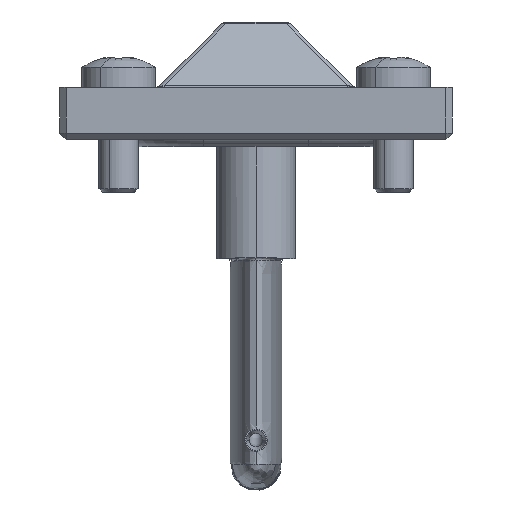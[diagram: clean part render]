
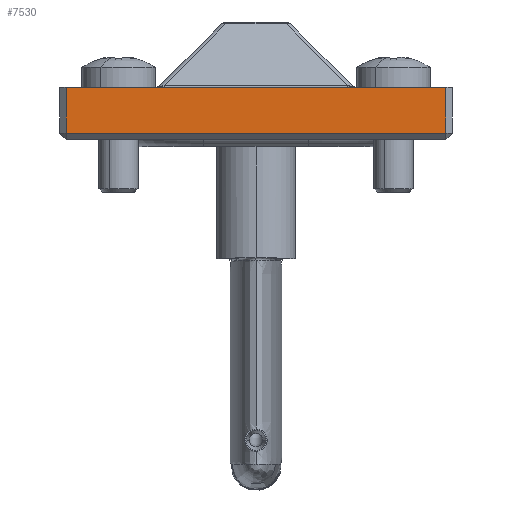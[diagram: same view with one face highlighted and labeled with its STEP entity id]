
A CAD part, front view. The second image highlights one B-rep face of the part: STEP entity #7530.
In plain terms, the highlighted planar face has unit normal (0, -1, 0).
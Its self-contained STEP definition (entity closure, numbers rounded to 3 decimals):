
#7503=AXIS2_PLACEMENT_3D('Plane Axis2P3D',#7500,#7501,#7502) ;
#727=CARTESIAN_POINT('Vertex',(-14.5,-13.5,63.)) ;
#730=CARTESIAN_POINT('Line Origine',(0.,-13.5,63.)) ;
#734=CARTESIAN_POINT('Vertex',(14.5,-13.5,63.)) ;
#7500=CARTESIAN_POINT('Axis2P3D Location',(15.,-13.5,59.)) ;
#7505=CARTESIAN_POINT('Line Origine',(0.,-13.5,59.5)) ;
#7509=CARTESIAN_POINT('Vertex',(-14.5,-13.5,59.5)) ;
#7511=CARTESIAN_POINT('Vertex',(14.5,-13.5,59.5)) ;
#7514=CARTESIAN_POINT('Line Origine',(14.5,-13.5,61.25)) ;
#7519=CARTESIAN_POINT('Line Origine',(-14.5,-13.5,61.25)) ;
#731=DIRECTION('Vector Direction',(-1.,0.,0.)) ;
#7501=DIRECTION('Axis2P3D Direction',(0.,1.,-0.)) ;
#7502=DIRECTION('Axis2P3D XDirection',(-1.,0.,0.)) ;
#7506=DIRECTION('Vector Direction',(-1.,0.,0.)) ;
#7515=DIRECTION('Vector Direction',(0.,0.,1.)) ;
#7520=DIRECTION('Vector Direction',(0.,0.,1.)) ;
#732=VECTOR('Line Direction',#731,1.) ;
#7507=VECTOR('Line Direction',#7506,1.) ;
#7516=VECTOR('Line Direction',#7515,1.) ;
#7521=VECTOR('Line Direction',#7520,1.) ;
#7525=ORIENTED_EDGE('',*,*,#7513,.T.) ;
#7526=ORIENTED_EDGE('',*,*,#7518,.T.) ;
#7527=ORIENTED_EDGE('',*,*,#736,.T.) ;
#7528=ORIENTED_EDGE('',*,*,#7523,.F.) ;
#7530=ADVANCED_FACE('PEIGNE',(#7529),#7504,.F.) ;
#736=EDGE_CURVE('',#735,#728,#733,.T.) ;
#7513=EDGE_CURVE('',#7510,#7512,#7508,.F.) ;
#7518=EDGE_CURVE('',#7512,#735,#7517,.T.) ;
#7523=EDGE_CURVE('',#7510,#728,#7522,.T.) ;
#7524=EDGE_LOOP('',(#7525,#7526,#7527,#7528)) ;
#7529=FACE_OUTER_BOUND('',#7524,.T.) ;
#733=LINE('Line',#730,#732) ;
#7508=LINE('Line',#7505,#7507) ;
#7517=LINE('Line',#7514,#7516) ;
#7522=LINE('Line',#7519,#7521) ;
#7504=PLANE('',#7503) ;
#728=VERTEX_POINT('',#727) ;
#735=VERTEX_POINT('',#734) ;
#7510=VERTEX_POINT('',#7509) ;
#7512=VERTEX_POINT('',#7511) ;
